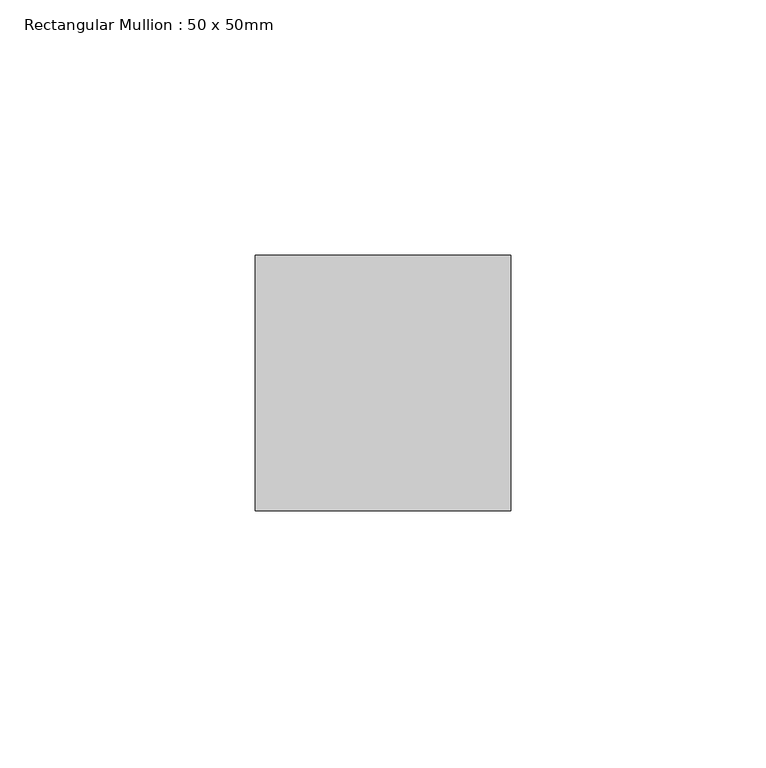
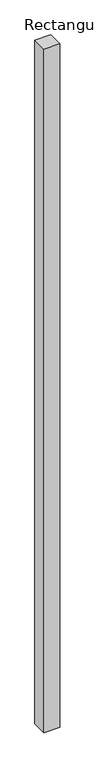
"""IFC4 building model written with IfcOpenShell, lengths in millimetres: member geometry, Rectangular Mullion : 50 x 50mm."""

import ifcopenshell
import ifcopenshell.guid

model = None  # the IFC model being written
_history = None  # IfcOwnerHistory: only IFC2X3 demands one
_inside = {}  # id of a spatial element -> (the spatial element, [elements in it])
_under = {}  # id of a project, library or spatial element -> (it, [spatial elements below it])
_declared = {}  # id of a project -> (the project, [libraries it declares])
_typed = {}  # id of a type object -> (the type object, [elements of that type])
_made_of = {}  # id of a material, layer set ... -> (it, [elements and type objects made of it])


def new_model(schema):
    """Start an empty IFC model of exactly this schema.

    Asked for "IFC4X3", IfcOpenShell would pick the latest addendum, in which some entities
    have other attributes; the version numbers below select the first issue.
    IFC2X3 requires an IfcOwnerHistory on every rooted entity: one is made here for all.
    """
    global model, _history
    if schema == "IFC4X3":
        model = ifcopenshell.file(schema_version=(4, 3, 0, 0))
    else:
        model = ifcopenshell.file(schema=schema)
    _inside.clear()
    _under.clear()
    _declared.clear()
    _typed.clear()
    _made_of.clear()
    _history = None
    if model.schema == "IFC2X3":
        org = make("IfcOrganization", Name="unknown")
        user = make(
            "IfcPersonAndOrganization",
            ThePerson=make("IfcPerson", FamilyName="unknown"),
            TheOrganization=org,
        )
        app = make(
            "IfcApplication",
            ApplicationDeveloper=org,
            Version="unknown",
            ApplicationFullName="unknown",
            ApplicationIdentifier="unknown",
        )
        _history = make(
            "IfcOwnerHistory",
            OwningUser=user,
            OwningApplication=app,
            ChangeAction="ADDED",
            CreationDate=0,
        )
    return model


def make(cls, **values):
    """One entity of the class cls with the attributes given. An attribute that is None is left unset."""
    return model.create_entity(
        cls, **{name: value for name, value in values.items() if value is not None}
    )


def rooted(cls, **values):
    """An entity with a GlobalId (a new one), such as an element, a storey or a relation."""
    return make(cls, GlobalId=ifcopenshell.guid.new(), OwnerHistory=_history, **values)


def si_unit(unit_type, name, prefix=None):
    """IfcSIUnit, for example si_unit("LENGTHUNIT", "METRE", prefix="MILLI")."""
    return make("IfcSIUnit", UnitType=unit_type, Prefix=prefix, Name=name)


def assignment(units):
    """IfcUnitAssignment: the units of a project."""
    return None if units is None else make("IfcUnitAssignment", Units=units)


def point(xyz):
    """IfcCartesianPoint."""
    return None if xyz is None else make("IfcCartesianPoint", Coordinates=xyz)


def direction(xyz):
    """IfcDirection."""
    return None if xyz is None else make("IfcDirection", DirectionRatios=xyz)


def frame(location, z_axis=None, x_axis=None):
    """IfcAxis2Placement3D, a coordinate frame: its origin and axes. An axis left out is left unset."""
    return make(
        "IfcAxis2Placement3D",
        Location=point(location),
        Axis=direction(z_axis),
        RefDirection=direction(x_axis),
    )


def origin():
    """The frame at (0, 0, 0) with its axes left unset."""
    return frame((0.0, 0.0, 0.0))


def place(relative_to, where):
    """IfcLocalPlacement: puts the frame where relative to a parent placement (None: the world)."""
    return make(
        "IfcLocalPlacement", PlacementRelTo=relative_to, RelativePlacement=where
    )


def context(
    kind, dimensions, precision=None, world=None, true_north=None, identifier=None
):
    """IfcGeometricRepresentationContext, for example the 3D "Model" context."""
    return make(
        "IfcGeometricRepresentationContext",
        ContextIdentifier=identifier,
        ContextType=kind,
        CoordinateSpaceDimension=dimensions,
        Precision=precision,
        WorldCoordinateSystem=world,
        TrueNorth=true_north,
    )


def project(units=None, contexts=None):
    """IfcProject with its units and contexts."""
    return rooted(
        "IfcProject",
        Name="project",
        RepresentationContexts=contexts,
        UnitsInContext=assignment(units),
    )


def spatial(cls, under=None, at=None, **own):
    """A site, building, storey or space (cls), placed at a placement, below another one or the project."""
    s = rooted(cls, ObjectPlacement=at, **own)
    if under is not None:
        _under.setdefault(under.id(), (under, []))[1].append(s)
    return s


def polyline(points):
    """IfcPolyline through the points."""
    return make("IfcPolyline", Points=[point(p) for p in points])


def outline(outer, holes=None, kind="AREA"):
    """IfcArbitraryClosedProfileDef: a profile drawn as a closed curve; with holes, ...WithVoids."""
    if holes is None:
        return make("IfcArbitraryClosedProfileDef", ProfileType=kind, OuterCurve=outer)
    return make(
        "IfcArbitraryProfileDefWithVoids",
        ProfileType=kind,
        OuterCurve=outer,
        InnerCurves=holes,
    )


def extrude(swept, where, along, depth):
    """IfcExtrudedAreaSolid: the profile swept, set in the frame where, extruded along a direction by depth."""
    return make(
        "IfcExtrudedAreaSolid",
        SweptArea=swept,
        Position=where,
        ExtrudedDirection=direction(along),
        Depth=depth,
    )


def shape(context_of_items, identifier, shape_type, items):
    """IfcShapeRepresentation: the items that make up one representation, for example the "Body"."""
    return make(
        "IfcShapeRepresentation",
        ContextOfItems=context_of_items,
        RepresentationIdentifier=identifier,
        RepresentationType=shape_type,
        Items=items,
    )


def source(mapping_origin, context_of_items, identifier, shape_type, items):
    """IfcRepresentationMap: a shape defined once, which mapped items show again and again."""
    return make(
        "IfcRepresentationMap",
        MappingOrigin=mapping_origin,
        MappedRepresentation=shape(context_of_items, identifier, shape_type, items),
    )


def transform(
    local_origin,
    x_axis=None,
    y_axis=None,
    z_axis=None,
    scale=None,
    scale2=None,
    scale3=None,
    uniform=True,
):
    """IfcCartesianTransformationOperator3D, or its non-uniform kind. x_axis, y_axis, z_axis: its Axis1, 2, 3."""
    if uniform:
        return make(
            "IfcCartesianTransformationOperator3D",
            Axis1=direction(x_axis),
            Axis2=direction(y_axis),
            LocalOrigin=point(local_origin),
            Scale=scale,
            Axis3=direction(z_axis),
        )
    return make(
        "IfcCartesianTransformationOperator3DnonUniform",
        Axis1=direction(x_axis),
        Axis2=direction(y_axis),
        LocalOrigin=point(local_origin),
        Scale=scale,
        Axis3=direction(z_axis),
        Scale2=scale2,
        Scale3=scale3,
    )


def mapped(mapping_source, mapping_target):
    """IfcMappedItem: shows the shape of a source again, moved by a transform."""
    return make(
        "IfcMappedItem", MappingSource=mapping_source, MappingTarget=mapping_target
    )


def made_of(thing, what):
    """Note that an element or type object is made of a material, layer set ...; save() writes the relation."""
    if what is not None:
        _made_of.setdefault(what.id(), (what, []))[1].append(thing)
    return thing


def element(
    cls,
    number,
    at=None,
    inside=None,
    cuts=None,
    type_object=None,
    material=None,
    context=None,
    identifier="Body",
    shape_type=None,
    held_by="IfcProductDefinitionShape",
    body=None,
    shapes=None,
    **own,
):
    """One element of the class cls, such as IfcWall. Its Tag is "e" and its number.

    at: its placement. inside: the storey or other place that contains it. cuts: it is an
    opening in that element (IfcRelVoidsElement). A single representation is given by context,
    identifier, shape_type and body (its items); several are given by shapes. held_by: the class
    of the entity that holds the representations. save() writes the other relations.
    """
    e = rooted(cls, Tag="e%d" % number, ObjectPlacement=at, **own)
    if body is not None:
        shapes = [shape(context, identifier, shape_type, body)]
    if shapes is not None:
        e.Representation = make(held_by, Representations=shapes)
    if inside is not None:
        _inside.setdefault(inside.id(), (inside, []))[1].append(e)
    if cuts is not None:
        rooted(
            "IfcRelVoidsElement", RelatingBuildingElement=cuts, RelatedOpeningElement=e
        )
    if type_object is not None:
        _typed.setdefault(type_object.id(), (type_object, []))[1].append(e)
    return made_of(e, material)


def aggregate(whole, parts):
    """IfcRelAggregates: a whole, such as a stair, and the parts it consists of."""
    return rooted("IfcRelAggregates", RelatingObject=whole, RelatedObjects=parts)


def save(model, path):
    """Write the relations noted so far, then the file.

    IfcRelAggregates (storeys below a building ...), IfcRelContainedInSpatialStructure (elements
    in a storey), IfcRelDefinesByType, IfcRelAssociatesMaterial and IfcRelDeclares: one each for
    every whole, place, type object, material and project.
    """
    for whole, parts in _under.values():
        aggregate(whole, parts)
    for where, things in _inside.values():
        rooted(
            "IfcRelContainedInSpatialStructure",
            RelatedElements=things,
            RelatingStructure=where,
        )
    for kind, things in _typed.values():
        rooted("IfcRelDefinesByType", RelatedObjects=things, RelatingType=kind)
    for what, things in _made_of.values():
        rooted("IfcRelAssociatesMaterial", RelatedObjects=things, RelatingMaterial=what)
    for by, libraries in _declared.values():
        rooted("IfcRelDeclares", RelatingContext=by, RelatedDefinitions=libraries)
    model.write(path)


def rectangular_mullion_50_x_50mm_b0cb055a(model_context):
    return source(origin(), model_context, "Body", "SweptSolid", [
        extrude(outline(polyline([(25.0, 0.0), (25.0, -50.0), (-25.0, -50.0), (-25.0, 0.0), (25.0, 0.0)])), frame((0.0, 0.0, -2300.0), z_axis=(0.0, 0.0, 1.0), x_axis=(1.0, 0.0, 0.0)), (0.0, 0.0, 1.0), 2300.0),
    ])


if __name__ == "__main__":
    model = new_model("IFC4")
    model_context = context("Model", 3, world=origin())
    ifc_project = project(units=[si_unit("LENGTHUNIT", "METRE", prefix="MILLI")], contexts=[model_context])
    site = spatial("IfcSite", under=ifc_project)
    building = spatial("IfcBuilding", under=site)
    placement = place(None, origin())
    rectangular_mullion_50_x_50mm_shape = rectangular_mullion_50_x_50mm_b0cb055a(model_context)
    element("IfcMember", 1, ObjectType="Rectangular Mullion : 50 x 50mm", at=placement, inside=building, context=model_context, shape_type="MappedRepresentation", body=[
        mapped(rectangular_mullion_50_x_50mm_shape, transform((0.0, 0.0, 0.0), x_axis=(1.0, 0.0, 0.0), y_axis=(0.0, 1.0, 0.0), z_axis=(0.0, 0.0, 1.0))),
    ])
    save(model, "model.ifc")
